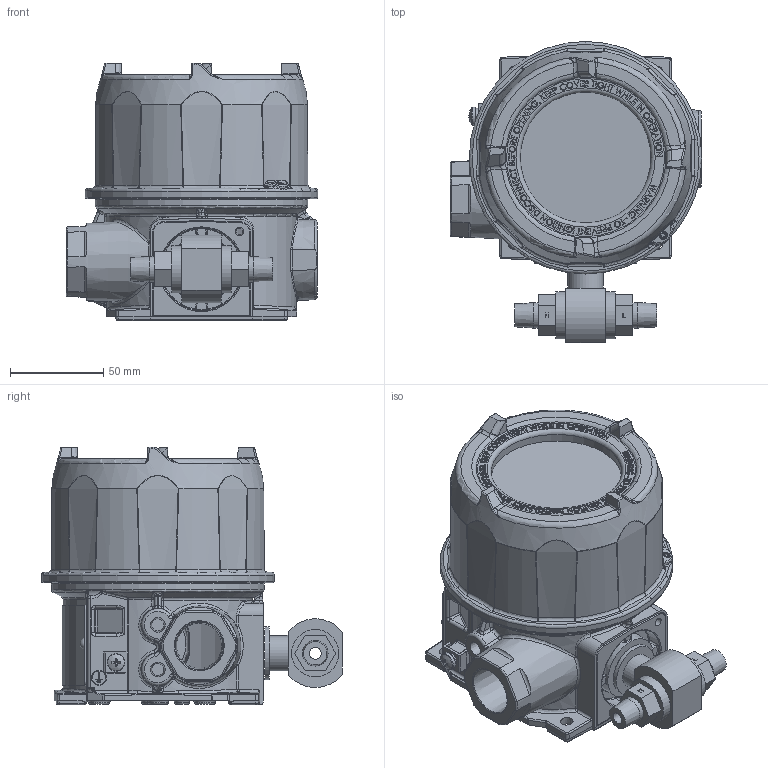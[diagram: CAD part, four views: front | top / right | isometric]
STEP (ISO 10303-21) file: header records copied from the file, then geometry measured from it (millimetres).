
FILE_DESCRIPTION (( 'STEP AP214' ), '1' );
FILE_NAME ('2SLP47_48_49_K10_K13_V7.STEP', '2025-03-13T17:28:23', ( '' ), ( '' ), 'SwSTEP 2.0', 'SolidWorks 2023', '' );
FILE_SCHEMA (( 'AUTOMOTIVE_DESIGN' ));
Length unit declared in the file: inch
Products named in the file (1): 2SLP47_48_49_K10_K13_V7
Bounding box: 135 x 161.4 x 138.33 mm (x, y, z)
Surface area: 106383.4 mm2 (no closed solid volume)
Topology: 0 solids, 18 shells, 1620 faces, 4867 edges, 3083 vertices
Faces by surface type: plane 706, bspline 438, cylinder 184, torus 163, cone 103, sphere 26
Full cylindrical faces by diameter (mm): 3.3 x1, 6.35 x1, 9.5 x1, 13.716 x2, 19.05 x1, 25.4 x2, 28.575 x1, 70.104 x1, 114.046 x1, 124.714 x1
Entity records: 78094 total; most frequent: CARTESIAN_POINT 39035, ORIENTED_EDGE 8264, DIRECTION 6905, EDGE_CURVE 4741, VERTEX_POINT 3055, VECTOR 2617, LINE 2617, AXIS2_PLACEMENT_3D 2144
